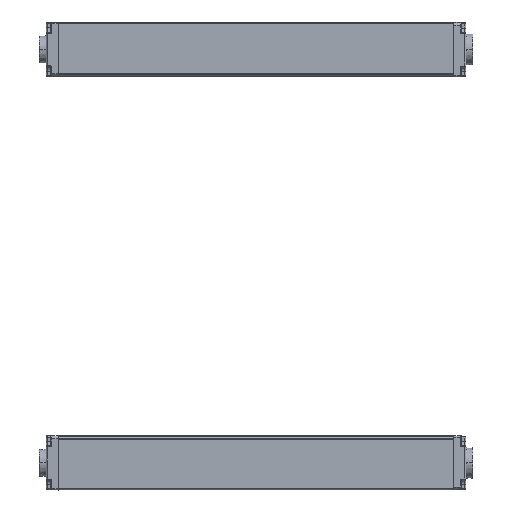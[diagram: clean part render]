
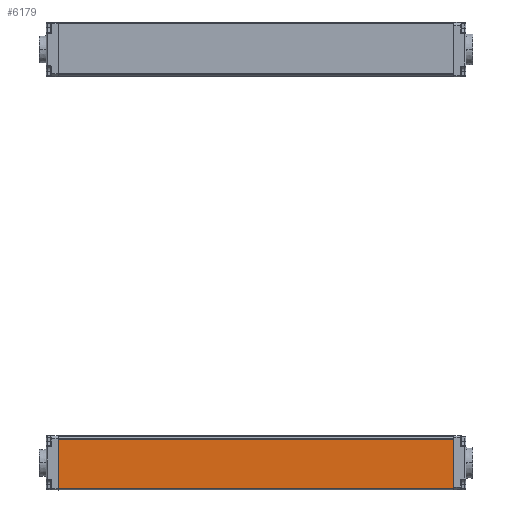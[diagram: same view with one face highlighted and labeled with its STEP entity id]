
A CAD part, left-side view. The second image highlights one B-rep face of the part: STEP entity #6179.
In plain terms, the highlighted planar face has unit normal (-1, 0, -0.009) as drawn and (1, 0, 0) by its records, which use the part's own axes.
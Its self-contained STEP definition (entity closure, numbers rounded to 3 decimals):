
#214 = VERTEX_POINT ( 'NONE', #9108 ) ;
#568 = LINE ( 'NONE', #6131, #15365 ) ;
#668 = CARTESIAN_POINT ( 'NONE',  ( 15., 220., -16.693 ) ) ;
#857 = VERTEX_POINT ( 'NONE', #16961 ) ;
#1281 = LINE ( 'NONE', #6845, #3736 ) ;
#1766 = VERTEX_POINT ( 'NONE', #10720 ) ;
#2774 = DIRECTION ( 'NONE',  ( 0., 0., 1. ) ) ;
#3024 = AXIS2_PLACEMENT_3D ( 'NONE', #9704, #15253, #2774 ) ;
#3540 = DIRECTION ( 'NONE',  ( 0., 0., -1. ) ) ;
#3736 = VECTOR ( 'NONE', #12402, 1000. ) ;
#4154 = PLANE ( 'NONE',  #3024 ) ;
#4693 = ORIENTED_EDGE ( 'NONE', *, *, #12318, .T. ) ;
#4824 = LINE ( 'NONE', #10386, #4911 ) ;
#4911 = VECTOR ( 'NONE', #15928, 1000. ) ;
#5349 = ORIENTED_EDGE ( 'NONE', *, *, #13449, .F. ) ;
#5837 = VECTOR ( 'NONE', #3540, 1000. ) ;
#6131 = CARTESIAN_POINT ( 'NONE',  ( 15., 220., -16.9 ) ) ;
#6179 = ADVANCED_FACE ( 'NONE', ( #16620 ), #4154, .F. ) ;
#6845 = CARTESIAN_POINT ( 'NONE',  ( 15., 220., 10.9 ) ) ;
#9108 = CARTESIAN_POINT ( 'NONE',  ( 15., 220., 10.9 ) ) ;
#9704 = CARTESIAN_POINT ( 'NONE',  ( 15., 220., -16.9 ) ) ;
#10386 = CARTESIAN_POINT ( 'NONE',  ( 15., 220., -16.693 ) ) ;
#10444 = EDGE_CURVE ( 'NONE', #857, #1766, #10461, .T. ) ;
#10461 = LINE ( 'NONE', #16009, #5837 ) ;
#10720 = CARTESIAN_POINT ( 'NONE',  ( 15., 0., -16.693 ) ) ;
#11309 = VERTEX_POINT ( 'NONE', #668 ) ;
#11692 = DIRECTION ( 'NONE',  ( 0., 0., -1. ) ) ;
#12318 = EDGE_CURVE ( 'NONE', #214, #857, #1281, .T. ) ;
#12402 = DIRECTION ( 'NONE',  ( 0., -1., 0. ) ) ;
#12632 = EDGE_CURVE ( 'NONE', #1766, #11309, #4824, .T. ) ;
#13246 = ORIENTED_EDGE ( 'NONE', *, *, #12632, .T. ) ;
#13449 = EDGE_CURVE ( 'NONE', #214, #11309, #568, .T. ) ;
#15253 = DIRECTION ( 'NONE',  ( -1., 0., 0. ) ) ;
#15365 = VECTOR ( 'NONE', #11692, 1000. ) ;
#15928 = DIRECTION ( 'NONE',  ( 0., 1., 0. ) ) ;
#16009 = CARTESIAN_POINT ( 'NONE',  ( 15., 0., -16.9 ) ) ;
#16515 = ORIENTED_EDGE ( 'NONE', *, *, #10444, .T. ) ;
#16620 = FACE_OUTER_BOUND ( 'NONE', #17270, .T. ) ;
#16961 = CARTESIAN_POINT ( 'NONE',  ( 15., 0., 10.9 ) ) ;
#17270 = EDGE_LOOP ( 'NONE', ( #16515, #13246, #5349, #4693 ) ) ;
